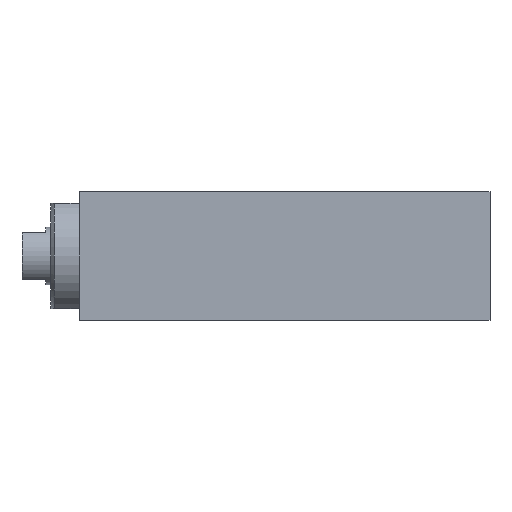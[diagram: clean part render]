
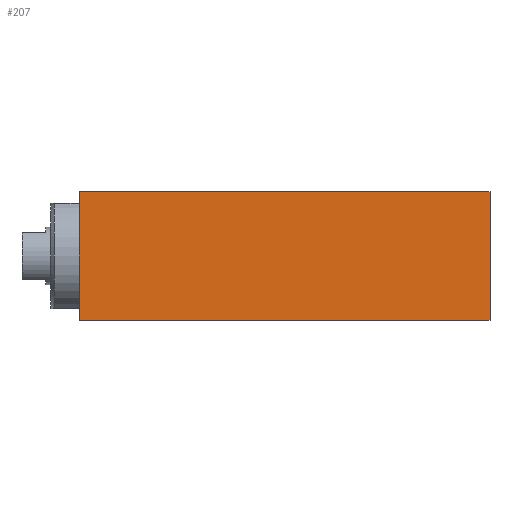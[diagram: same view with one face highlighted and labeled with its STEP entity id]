
A CAD part, front view. The second image highlights one B-rep face of the part: STEP entity #207.
In plain terms, the highlighted planar face has unit normal (0, -1, 0).
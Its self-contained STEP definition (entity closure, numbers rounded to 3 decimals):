
#68 = ORIENTED_EDGE ( 'NONE', *, *, #2185, .T. ) ;
#130 = ORIENTED_EDGE ( 'NONE', *, *, #1103, .T. ) ;
#207 = ADVANCED_FACE ( 'NONE', ( #765 ), #2367, .T. ) ;
#253 = DIRECTION ( 'NONE',  ( -1., 0., 0. ) ) ;
#405 = CARTESIAN_POINT ( 'NONE',  ( 43., -11.5, 6.75 ) ) ;
#428 = AXIS2_PLACEMENT_3D ( 'NONE', #2137, #2568, #1656 ) ;
#465 = VERTEX_POINT ( 'NONE', #405 ) ;
#508 = LINE ( 'NONE', #1953, #2469 ) ;
#742 = LINE ( 'NONE', #1233, #1223 ) ;
#760 = CARTESIAN_POINT ( 'NONE',  ( 43., -11.5, -6.75 ) ) ;
#765 = FACE_OUTER_BOUND ( 'NONE', #2281, .T. ) ;
#861 = EDGE_CURVE ( 'NONE', #1948, #1742, #1075, .T. ) ;
#884 = VERTEX_POINT ( 'NONE', #2259 ) ;
#969 = CARTESIAN_POINT ( 'NONE',  ( 0., -11.5, -6.75 ) ) ;
#1075 = LINE ( 'NONE', #1809, #2855 ) ;
#1098 = VECTOR ( 'NONE', #253, 1000. ) ;
#1103 = EDGE_CURVE ( 'NONE', #465, #1742, #742, .T. ) ;
#1223 = VECTOR ( 'NONE', #2156, 1000. ) ;
#1233 = CARTESIAN_POINT ( 'NONE',  ( 43., -11.5, 6.75 ) ) ;
#1480 = DIRECTION ( 'NONE',  ( 0., 0., 1. ) ) ;
#1656 = DIRECTION ( 'NONE',  ( 1., 0., 0. ) ) ;
#1742 = VERTEX_POINT ( 'NONE', #2472 ) ;
#1809 = CARTESIAN_POINT ( 'NONE',  ( 0., -11.5, -6.75 ) ) ;
#1925 = EDGE_CURVE ( 'NONE', #884, #1948, #2391, .T. ) ;
#1948 = VERTEX_POINT ( 'NONE', #969 ) ;
#1953 = CARTESIAN_POINT ( 'NONE',  ( 43., -11.5, -6.75 ) ) ;
#2137 = CARTESIAN_POINT ( 'NONE',  ( 43., -11.5, -6.75 ) ) ;
#2156 = DIRECTION ( 'NONE',  ( -1., 0., 0. ) ) ;
#2185 = EDGE_CURVE ( 'NONE', #884, #465, #508, .T. ) ;
#2259 = CARTESIAN_POINT ( 'NONE',  ( 43., -11.5, -6.75 ) ) ;
#2281 = EDGE_LOOP ( 'NONE', ( #2317, #2738, #68, #130 ) ) ;
#2317 = ORIENTED_EDGE ( 'NONE', *, *, #861, .F. ) ;
#2367 = PLANE ( 'NONE',  #428 ) ;
#2391 = LINE ( 'NONE', #760, #1098 ) ;
#2469 = VECTOR ( 'NONE', #1480, 1000. ) ;
#2472 = CARTESIAN_POINT ( 'NONE',  ( 0., -11.5, 6.75 ) ) ;
#2491 = DIRECTION ( 'NONE',  ( 0., 0., 1. ) ) ;
#2568 = DIRECTION ( 'NONE',  ( 0., -1., 0. ) ) ;
#2738 = ORIENTED_EDGE ( 'NONE', *, *, #1925, .F. ) ;
#2855 = VECTOR ( 'NONE', #2491, 1000. ) ;
